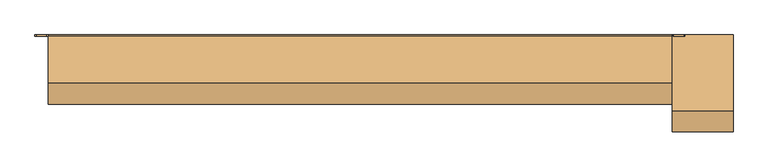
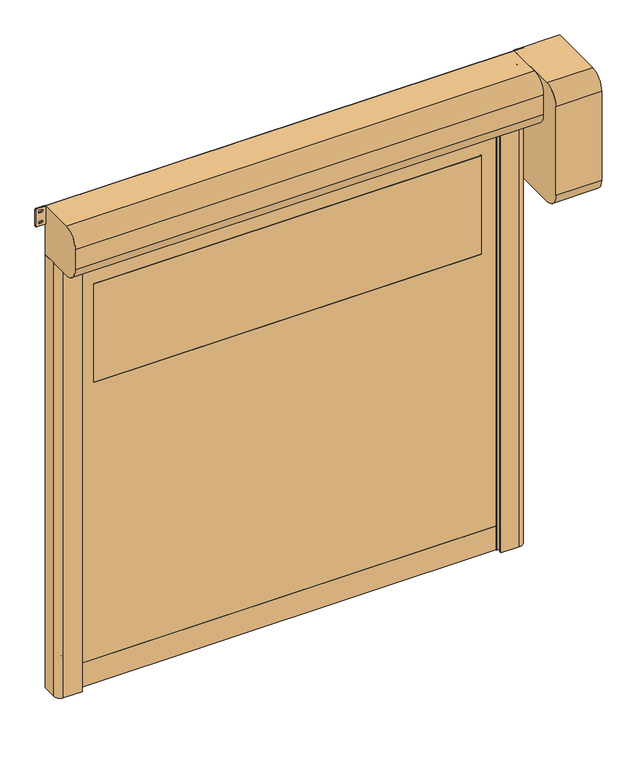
"""IFC4 building model written with IfcOpenShell, lengths in millimetres: door geometry, DO_WPB_DynaSeal_BMP : DynaSeal."""

import ifcopenshell
import ifcopenshell.guid

model = None  # the IFC model being written
_history = None  # IfcOwnerHistory: only IFC2X3 demands one
_inside = {}  # id of a spatial element -> (the spatial element, [elements in it])
_under = {}  # id of a project, library or spatial element -> (it, [spatial elements below it])
_declared = {}  # id of a project -> (the project, [libraries it declares])
_typed = {}  # id of a type object -> (the type object, [elements of that type])
_made_of = {}  # id of a material, layer set ... -> (it, [elements and type objects made of it])


def new_model(schema):
    """Start an empty IFC model of exactly this schema.

    Asked for "IFC4X3", IfcOpenShell would pick the latest addendum, in which some entities
    have other attributes; the version numbers below select the first issue.
    IFC2X3 requires an IfcOwnerHistory on every rooted entity: one is made here for all.
    """
    global model, _history
    if schema == "IFC4X3":
        model = ifcopenshell.file(schema_version=(4, 3, 0, 0))
    else:
        model = ifcopenshell.file(schema=schema)
    _inside.clear()
    _under.clear()
    _declared.clear()
    _typed.clear()
    _made_of.clear()
    _history = None
    if model.schema == "IFC2X3":
        org = make("IfcOrganization", Name="unknown")
        user = make(
            "IfcPersonAndOrganization",
            ThePerson=make("IfcPerson", FamilyName="unknown"),
            TheOrganization=org,
        )
        app = make(
            "IfcApplication",
            ApplicationDeveloper=org,
            Version="unknown",
            ApplicationFullName="unknown",
            ApplicationIdentifier="unknown",
        )
        _history = make(
            "IfcOwnerHistory",
            OwningUser=user,
            OwningApplication=app,
            ChangeAction="ADDED",
            CreationDate=0,
        )
    return model


def make(cls, **values):
    """One entity of the class cls with the attributes given. An attribute that is None is left unset."""
    return model.create_entity(
        cls, **{name: value for name, value in values.items() if value is not None}
    )


def rooted(cls, **values):
    """An entity with a GlobalId (a new one), such as an element, a storey or a relation."""
    return make(cls, GlobalId=ifcopenshell.guid.new(), OwnerHistory=_history, **values)


def si_unit(unit_type, name, prefix=None):
    """IfcSIUnit, for example si_unit("LENGTHUNIT", "METRE", prefix="MILLI")."""
    return make("IfcSIUnit", UnitType=unit_type, Prefix=prefix, Name=name)


def assignment(units):
    """IfcUnitAssignment: the units of a project."""
    return None if units is None else make("IfcUnitAssignment", Units=units)


def point(xyz):
    """IfcCartesianPoint."""
    return None if xyz is None else make("IfcCartesianPoint", Coordinates=xyz)


def direction(xyz):
    """IfcDirection."""
    return None if xyz is None else make("IfcDirection", DirectionRatios=xyz)


def frame(location, z_axis=None, x_axis=None):
    """IfcAxis2Placement3D, a coordinate frame: its origin and axes. An axis left out is left unset."""
    return make(
        "IfcAxis2Placement3D",
        Location=point(location),
        Axis=direction(z_axis),
        RefDirection=direction(x_axis),
    )


def frame_2d(location, x_axis=None):
    """IfcAxis2Placement2D, a coordinate frame in the plane: its origin and x axis."""
    return make(
        "IfcAxis2Placement2D", Location=point(location), RefDirection=direction(x_axis)
    )


def origin():
    """The frame at (0, 0, 0) with its axes left unset."""
    return frame((0.0, 0.0, 0.0))


def origin_with_axes():
    """The frame at (0, 0, 0) with the z axis (0, 0, 1) and the x axis (1, 0, 0) written out."""
    return frame((0.0, 0.0, 0.0), z_axis=(0.0, 0.0, 1.0), x_axis=(1.0, 0.0, 0.0))


def place(relative_to, where):
    """IfcLocalPlacement: puts the frame where relative to a parent placement (None: the world)."""
    return make(
        "IfcLocalPlacement", PlacementRelTo=relative_to, RelativePlacement=where
    )


def context(
    kind, dimensions, precision=None, world=None, true_north=None, identifier=None
):
    """IfcGeometricRepresentationContext, for example the 3D "Model" context."""
    return make(
        "IfcGeometricRepresentationContext",
        ContextIdentifier=identifier,
        ContextType=kind,
        CoordinateSpaceDimension=dimensions,
        Precision=precision,
        WorldCoordinateSystem=world,
        TrueNorth=true_north,
    )


def project(units=None, contexts=None):
    """IfcProject with its units and contexts."""
    return rooted(
        "IfcProject",
        Name="project",
        RepresentationContexts=contexts,
        UnitsInContext=assignment(units),
    )


def spatial(cls, under=None, at=None, **own):
    """A site, building, storey or space (cls), placed at a placement, below another one or the project."""
    s = rooted(cls, ObjectPlacement=at, **own)
    if under is not None:
        _under.setdefault(under.id(), (under, []))[1].append(s)
    return s


def polyline(points):
    """IfcPolyline through the points."""
    return make("IfcPolyline", Points=[point(p) for p in points])


def circle_curve(where, radius):
    """IfcCircle in the frame where."""
    return make("IfcCircle", Position=where, Radius=radius)


def trimmed(basis, trim1, trim2, sense, master):
    """IfcTrimmedCurve: the piece of a basis curve between two trims."""
    return make(
        "IfcTrimmedCurve",
        BasisCurve=basis,
        Trim1=trim1,
        Trim2=trim2,
        SenseAgreement=sense,
        MasterRepresentation=master,
    )


def segment(curve, same_sense, transition):
    """IfcCompositeCurveSegment."""
    return make(
        "IfcCompositeCurveSegment",
        Transition=transition,
        SameSense=same_sense,
        ParentCurve=curve,
    )


def composite_curve(segments, self_intersect=None):
    """IfcCompositeCurve: segments joined end to end."""
    return make("IfcCompositeCurve", Segments=segments, SelfIntersect=self_intersect)


def outline(outer, holes=None, kind="AREA"):
    """IfcArbitraryClosedProfileDef: a profile drawn as a closed curve; with holes, ...WithVoids."""
    if holes is None:
        return make("IfcArbitraryClosedProfileDef", ProfileType=kind, OuterCurve=outer)
    return make(
        "IfcArbitraryProfileDefWithVoids",
        ProfileType=kind,
        OuterCurve=outer,
        InnerCurves=holes,
    )


def extrude(swept, where, along, depth):
    """IfcExtrudedAreaSolid: the profile swept, set in the frame where, extruded along a direction by depth."""
    return make(
        "IfcExtrudedAreaSolid",
        SweptArea=swept,
        Position=where,
        ExtrudedDirection=direction(along),
        Depth=depth,
    )


def shape(context_of_items, identifier, shape_type, items):
    """IfcShapeRepresentation: the items that make up one representation, for example the "Body"."""
    return make(
        "IfcShapeRepresentation",
        ContextOfItems=context_of_items,
        RepresentationIdentifier=identifier,
        RepresentationType=shape_type,
        Items=items,
    )


def source(mapping_origin, context_of_items, identifier, shape_type, items):
    """IfcRepresentationMap: a shape defined once, which mapped items show again and again."""
    return make(
        "IfcRepresentationMap",
        MappingOrigin=mapping_origin,
        MappedRepresentation=shape(context_of_items, identifier, shape_type, items),
    )


def transform(
    local_origin,
    x_axis=None,
    y_axis=None,
    z_axis=None,
    scale=None,
    scale2=None,
    scale3=None,
    uniform=True,
):
    """IfcCartesianTransformationOperator3D, or its non-uniform kind. x_axis, y_axis, z_axis: its Axis1, 2, 3."""
    if uniform:
        return make(
            "IfcCartesianTransformationOperator3D",
            Axis1=direction(x_axis),
            Axis2=direction(y_axis),
            LocalOrigin=point(local_origin),
            Scale=scale,
            Axis3=direction(z_axis),
        )
    return make(
        "IfcCartesianTransformationOperator3DnonUniform",
        Axis1=direction(x_axis),
        Axis2=direction(y_axis),
        LocalOrigin=point(local_origin),
        Scale=scale,
        Axis3=direction(z_axis),
        Scale2=scale2,
        Scale3=scale3,
    )


def mapped(mapping_source, mapping_target):
    """IfcMappedItem: shows the shape of a source again, moved by a transform."""
    return make(
        "IfcMappedItem", MappingSource=mapping_source, MappingTarget=mapping_target
    )


def made_of(thing, what):
    """Note that an element or type object is made of a material, layer set ...; save() writes the relation."""
    if what is not None:
        _made_of.setdefault(what.id(), (what, []))[1].append(thing)
    return thing


def element(
    cls,
    number,
    at=None,
    inside=None,
    cuts=None,
    type_object=None,
    material=None,
    context=None,
    identifier="Body",
    shape_type=None,
    held_by="IfcProductDefinitionShape",
    body=None,
    shapes=None,
    **own,
):
    """One element of the class cls, such as IfcWall. Its Tag is "e" and its number.

    at: its placement. inside: the storey or other place that contains it. cuts: it is an
    opening in that element (IfcRelVoidsElement). A single representation is given by context,
    identifier, shape_type and body (its items); several are given by shapes. held_by: the class
    of the entity that holds the representations. save() writes the other relations.
    """
    e = rooted(cls, Tag="e%d" % number, ObjectPlacement=at, **own)
    if body is not None:
        shapes = [shape(context, identifier, shape_type, body)]
    if shapes is not None:
        e.Representation = make(held_by, Representations=shapes)
    if inside is not None:
        _inside.setdefault(inside.id(), (inside, []))[1].append(e)
    if cuts is not None:
        rooted(
            "IfcRelVoidsElement", RelatingBuildingElement=cuts, RelatedOpeningElement=e
        )
    if type_object is not None:
        _typed.setdefault(type_object.id(), (type_object, []))[1].append(e)
    return made_of(e, material)


def aggregate(whole, parts):
    """IfcRelAggregates: a whole, such as a stair, and the parts it consists of."""
    return rooted("IfcRelAggregates", RelatingObject=whole, RelatedObjects=parts)


def save(model, path):
    """Write the relations noted so far, then the file.

    IfcRelAggregates (storeys below a building ...), IfcRelContainedInSpatialStructure (elements
    in a storey), IfcRelDefinesByType, IfcRelAssociatesMaterial and IfcRelDeclares: one each for
    every whole, place, type object, material and project.
    """
    for whole, parts in _under.values():
        aggregate(whole, parts)
    for where, things in _inside.values():
        rooted(
            "IfcRelContainedInSpatialStructure",
            RelatedElements=things,
            RelatingStructure=where,
        )
    for kind, things in _typed.values():
        rooted("IfcRelDefinesByType", RelatedObjects=things, RelatingType=kind)
    for what, things in _made_of.values():
        rooted("IfcRelAssociatesMaterial", RelatedObjects=things, RelatingMaterial=what)
    for by, libraries in _declared.values():
        rooted("IfcRelDeclares", RelatingContext=by, RelatedDefinitions=libraries)
    model.write(path)


def door_e8c69fe0(model_context):
    return source(origin(), model_context, "Body", "SweptSolid", [
        extrude(outline(composite_curve([segment(trimmed(circle_curve(frame_2d((1416.6666667, 1064.0)), 6.0), [point((1422.6666667, 1064.0))], [point((1410.6666667, 1064.0))], False, "CARTESIAN"), True, "CONTINUOUS"), segment(polyline([(1410.6666667, 1064.0), (1410.6666667, 1082.0)]), True, "CONTINUOUS"), segment(trimmed(circle_curve(frame_2d((1416.6666667, 1082.0)), 6.0), [point((1410.6666667, 1082.0))], [point((1422.6666667, 1082.0))], False, "CARTESIAN"), True, "CONTINUOUS"), segment(polyline([(1422.6666667, 1082.0), (1422.6666667, 1064.0)]), True, "CONTINUOUS")], self_intersect=False)), frame((0.0, -20.0, 0.0), z_axis=(0.0, 1.0, 0.0), x_axis=(0.0, 0.0, 1.0)), (0.0, 0.0, 1.0), 20.0),
        extrude(outline(composite_curve([segment(trimmed(circle_curve(frame_2d((783.3333333, 1064.0)), 6.0), [point((789.3333333, 1064.0))], [point((777.3333333, 1064.0))], False, "CARTESIAN"), True, "CONTINUOUS"), segment(polyline([(777.3333333, 1064.0), (777.3333333, 1082.0)]), True, "CONTINUOUS"), segment(trimmed(circle_curve(frame_2d((783.3333333, 1082.0)), 6.0), [point((777.3333333, 1082.0))], [point((789.3333333, 1082.0))], False, "CARTESIAN"), True, "CONTINUOUS"), segment(polyline([(789.3333333, 1082.0), (789.3333333, 1064.0)]), True, "CONTINUOUS")], self_intersect=False)), frame((0.0, -20.0, 0.0), z_axis=(0.0, 1.0, 0.0), x_axis=(0.0, 0.0, 1.0)), (0.0, 0.0, 1.0), 20.0),
        extrude(outline(composite_curve([segment(trimmed(circle_curve(frame_2d((2050.0, 1064.0)), 6.0), [point((2056.0, 1064.0))], [point((2044.0, 1064.0))], False, "CARTESIAN"), True, "CONTINUOUS"), segment(polyline([(2044.0, 1064.0), (2044.0, 1082.0)]), True, "CONTINUOUS"), segment(trimmed(circle_curve(frame_2d((2050.0, 1082.0)), 6.0), [point((2044.0, 1082.0))], [point((2056.0, 1082.0))], False, "CARTESIAN"), True, "CONTINUOUS"), segment(polyline([(2056.0, 1082.0), (2056.0, 1064.0)]), True, "CONTINUOUS")], self_intersect=False)), frame((0.0, -20.0, 0.0), z_axis=(0.0, 1.0, 0.0), x_axis=(0.0, 0.0, 1.0)), (0.0, 0.0, 1.0), 20.0),
        extrude(outline(composite_curve([segment(trimmed(circle_curve(frame_2d((150.0, 1064.0)), 6.0), [point((156.0, 1064.0))], [point((144.0, 1064.0))], False, "CARTESIAN"), True, "CONTINUOUS"), segment(polyline([(144.0, 1064.0), (144.0, 1082.0)]), True, "CONTINUOUS"), segment(trimmed(circle_curve(frame_2d((150.0, 1082.0)), 6.0), [point((144.0, 1082.0))], [point((156.0, 1082.0))], False, "CARTESIAN"), True, "CONTINUOUS"), segment(polyline([(156.0, 1082.0), (156.0, 1064.0)]), True, "CONTINUOUS")], self_intersect=False)), frame((0.0, -20.0, 0.0), z_axis=(0.0, 1.0, 0.0), x_axis=(0.0, 0.0, 1.0)), (0.0, 0.0, 1.0), 20.0),
        extrude(outline(composite_curve([segment(polyline([(1422.6666667, -1064.0), (1422.6666667, -1082.0)]), True, "CONTINUOUS"), segment(trimmed(circle_curve(frame_2d((1416.6666667, -1082.0)), 6.0), [point((1422.6666667, -1082.0))], [point((1410.6666667, -1082.0))], False, "CARTESIAN"), True, "CONTINUOUS"), segment(polyline([(1410.6666667, -1082.0), (1410.6666667, -1064.0)]), True, "CONTINUOUS"), segment(trimmed(circle_curve(frame_2d((1416.6666667, -1064.0)), 6.0), [point((1410.6666667, -1064.0))], [point((1422.6666667, -1064.0))], False, "CARTESIAN"), True, "CONTINUOUS")], self_intersect=False)), frame((0.0, -20.0, 0.0), z_axis=(0.0, 1.0, 0.0), x_axis=(0.0, 0.0, 1.0)), (0.0, 0.0, 1.0), 20.0),
        extrude(outline(composite_curve([segment(polyline([(789.3333333, -1064.0), (789.3333333, -1082.0)]), True, "CONTINUOUS"), segment(trimmed(circle_curve(frame_2d((783.3333333, -1082.0)), 6.0), [point((789.3333333, -1082.0))], [point((777.3333333, -1082.0))], False, "CARTESIAN"), True, "CONTINUOUS"), segment(polyline([(777.3333333, -1082.0), (777.3333333, -1064.0)]), True, "CONTINUOUS"), segment(trimmed(circle_curve(frame_2d((783.3333333, -1064.0)), 6.0), [point((777.3333333, -1064.0))], [point((789.3333333, -1064.0))], False, "CARTESIAN"), True, "CONTINUOUS")], self_intersect=False)), frame((0.0, -20.0, 0.0), z_axis=(0.0, 1.0, 0.0), x_axis=(0.0, 0.0, 1.0)), (0.0, 0.0, 1.0), 20.0),
        extrude(outline(composite_curve([segment(polyline([(2056.0, -1064.0), (2056.0, -1082.0)]), True, "CONTINUOUS"), segment(trimmed(circle_curve(frame_2d((2050.0, -1082.0)), 6.0), [point((2056.0, -1082.0))], [point((2044.0, -1082.0))], False, "CARTESIAN"), True, "CONTINUOUS"), segment(polyline([(2044.0, -1082.0), (2044.0, -1064.0)]), True, "CONTINUOUS"), segment(trimmed(circle_curve(frame_2d((2050.0, -1064.0)), 6.0), [point((2044.0, -1064.0))], [point((2056.0, -1064.0))], False, "CARTESIAN"), True, "CONTINUOUS")], self_intersect=False)), frame((0.0, -20.0, 0.0), z_axis=(0.0, 1.0, 0.0), x_axis=(0.0, 0.0, 1.0)), (0.0, 0.0, 1.0), 20.0),
        extrude(outline(composite_curve([segment(polyline([(156.0, -1064.0), (156.0, -1082.0)]), True, "CONTINUOUS"), segment(trimmed(circle_curve(frame_2d((150.0, -1082.0)), 6.0), [point((156.0, -1082.0))], [point((144.0, -1082.0))], False, "CARTESIAN"), True, "CONTINUOUS"), segment(polyline([(144.0, -1082.0), (144.0, -1064.0)]), True, "CONTINUOUS"), segment(trimmed(circle_curve(frame_2d((150.0, -1064.0)), 6.0), [point((144.0, -1064.0))], [point((156.0, -1064.0))], False, "CARTESIAN"), True, "CONTINUOUS")], self_intersect=False)), frame((0.0, -20.0, 0.0), z_axis=(0.0, 1.0, 0.0), x_axis=(0.0, 0.0, 1.0)), (0.0, 0.0, 1.0), 20.0),
        extrude(outline(composite_curve([segment(trimmed(circle_curve(frame_2d((1526.0, 929.0)), 1.0), [point((1525.0, 929.0))], [point((1526.0, 930.0))], False, "CARTESIAN"), True, "CONTINUOUS"), segment(polyline([(1526.0, 930.0), (2024.0, 930.0)]), True, "CONTINUOUS"), segment(trimmed(circle_curve(frame_2d((2024.0, 929.0)), 1.0), [point((2024.0, 930.0))], [point((2025.0, 929.0))], False, "CARTESIAN"), True, "CONTINUOUS"), segment(polyline([(2025.0, 929.0), (2025.0, -929.0)]), True, "CONTINUOUS"), segment(trimmed(circle_curve(frame_2d((2024.0, -929.0)), 1.0), [point((2025.0, -929.0))], [point((2024.0, -930.0))], False, "CARTESIAN"), True, "CONTINUOUS"), segment(polyline([(2024.0, -930.0), (1526.0, -930.0)]), True, "CONTINUOUS"), segment(trimmed(circle_curve(frame_2d((1526.0, -929.0)), 1.0), [point((1526.0, -930.0))], [point((1525.0, -929.0))], False, "CARTESIAN"), True, "CONTINUOUS"), segment(polyline([(1525.0, -929.0), (1525.0, 929.0)]), True, "CONTINUOUS")], self_intersect=False)), frame((0.0, -68.5, 0.0), z_axis=(0.0, 1.0, 0.0), x_axis=(0.0, 0.0, 1.0)), (0.0, 0.0, 1.0), 7.0),
        extrude(outline(polyline([(120.0, -1012.0), (120.0, 1012.0), (2325.0, 1012.0), (2325.0, -1012.0), (120.0, -1012.0)]), holes=[composite_curve([segment(trimmed(circle_curve(frame_2d((1526.0, 929.0)), 1.0), [point((1526.0, 930.0))], [point((1525.0, 929.0))], True, "CARTESIAN"), True, "CONTINUOUS"), segment(polyline([(1525.0, 929.0), (1525.0, -929.0)]), True, "CONTINUOUS"), segment(trimmed(circle_curve(frame_2d((1526.0, -929.0)), 1.0), [point((1525.0, -929.0))], [point((1526.0, -930.0))], True, "CARTESIAN"), True, "CONTINUOUS"), segment(polyline([(1526.0, -930.0), (2024.0, -930.0)]), True, "CONTINUOUS"), segment(trimmed(circle_curve(frame_2d((2024.0, -929.0)), 1.0), [point((2024.0, -930.0))], [point((2025.0, -929.0))], True, "CARTESIAN"), True, "CONTINUOUS"), segment(polyline([(2025.0, -929.0), (2025.0, 929.0)]), True, "CONTINUOUS"), segment(trimmed(circle_curve(frame_2d((2024.0, 929.0)), 1.0), [point((2025.0, 929.0))], [point((2024.0, 930.0))], True, "CARTESIAN"), True, "CONTINUOUS"), segment(polyline([(2024.0, 930.0), (1526.0, 930.0)]), True, "CONTINUOUS")], self_intersect=False)]), frame((0.0, -68.5, 0.0), z_axis=(0.0, 1.0, 0.0), x_axis=(0.0, 0.0, 1.0)), (0.0, 0.0, 1.0), 7.0),
        extrude(outline(polyline([(-1012.0, -59.5), (1012.0, -59.5), (1012.0, -70.5), (-1012.0, -70.5), (-1012.0, -59.5)])), origin_with_axes(), (0.0, 0.0, 1.0), 120.0),
        extrude(outline(composite_curve([segment(trimmed(circle_curve(frame_2d((2363.75, 1130.75)), 5.75), [point((2363.75, 1125.0))], [point((2358.0, 1130.75))], False, "CARTESIAN"), True, "CONTINUOUS"), segment(polyline([(2358.0, 1130.75), (2358.0, 1168.25)]), True, "CONTINUOUS"), segment(trimmed(circle_curve(frame_2d((2363.75, 1168.25)), 5.75), [point((2358.0, 1168.25))], [point((2363.75, 1174.0))], False, "CARTESIAN"), True, "CONTINUOUS"), segment(polyline([(2363.75, 1174.0), (2444.25, 1174.0)]), True, "CONTINUOUS"), segment(trimmed(circle_curve(frame_2d((2444.25, 1168.25)), 5.75), [point((2444.25, 1174.0))], [point((2450.0, 1168.25))], False, "CARTESIAN"), True, "CONTINUOUS"), segment(polyline([(2450.0, 1168.25), (2450.0, 1130.75)]), True, "CONTINUOUS"), segment(trimmed(circle_curve(frame_2d((2444.25, 1130.75)), 5.75), [point((2450.0, 1130.75))], [point((2444.25, 1125.0))], False, "CARTESIAN"), True, "CONTINUOUS"), segment(polyline([(2444.25, 1125.0), (2363.75, 1125.0)]), True, "CONTINUOUS")], self_intersect=False), holes=[composite_curve([segment(trimmed(circle_curve(frame_2d((2431.5, 1153.75)), 5.75), [point((2437.25, 1153.75))], [point((2425.75, 1153.75))], True, "CARTESIAN"), True, "CONTINUOUS"), segment(polyline([(2425.75, 1153.75), (2425.75, 1145.25)]), True, "CONTINUOUS"), segment(trimmed(circle_curve(frame_2d((2431.5, 1145.25)), 5.75), [point((2425.75, 1145.25))], [point((2437.25, 1145.25))], True, "CARTESIAN"), True, "CONTINUOUS"), segment(polyline([(2437.25, 1145.25), (2437.25, 1153.75)]), True, "CONTINUOUS")], self_intersect=False), composite_curve([segment(trimmed(circle_curve(frame_2d((2376.5, 1153.75)), 5.75), [point((2382.25, 1153.75))], [point((2370.75, 1153.75))], True, "CARTESIAN"), True, "CONTINUOUS"), segment(polyline([(2370.75, 1153.75), (2370.75, 1145.25)]), True, "CONTINUOUS"), segment(trimmed(circle_curve(frame_2d((2376.5, 1145.25)), 5.75), [point((2370.75, 1145.25))], [point((2382.25, 1145.25))], True, "CARTESIAN"), True, "CONTINUOUS"), segment(polyline([(2382.25, 1145.25), (2382.25, 1153.75)]), True, "CONTINUOUS")], self_intersect=False)]), frame((0.0, -5.0, 0.0), z_axis=(0.0, 1.0, 0.0), x_axis=(0.0, 0.0, 1.0)), (0.0, 0.0, 1.0), 5.0),
        extrude(outline(composite_curve([segment(trimmed(circle_curve(frame_2d((2363.75, -1168.25)), 5.75), [point((2363.75, -1174.0))], [point((2358.0, -1168.25))], False, "CARTESIAN"), True, "CONTINUOUS"), segment(polyline([(2358.0, -1168.25), (2358.0, -1130.75)]), True, "CONTINUOUS"), segment(trimmed(circle_curve(frame_2d((2363.75, -1130.75)), 5.75), [point((2358.0, -1130.75))], [point((2363.75, -1125.0))], False, "CARTESIAN"), True, "CONTINUOUS"), segment(polyline([(2363.75, -1125.0), (2444.25, -1125.0)]), True, "CONTINUOUS"), segment(trimmed(circle_curve(frame_2d((2444.25, -1130.75)), 5.75), [point((2444.25, -1125.0))], [point((2450.0, -1130.75))], False, "CARTESIAN"), True, "CONTINUOUS"), segment(polyline([(2450.0, -1130.75), (2450.0, -1168.25)]), True, "CONTINUOUS"), segment(trimmed(circle_curve(frame_2d((2444.25, -1168.25)), 5.75), [point((2450.0, -1168.25))], [point((2444.25, -1174.0))], False, "CARTESIAN"), True, "CONTINUOUS"), segment(polyline([(2444.25, -1174.0), (2363.75, -1174.0)]), True, "CONTINUOUS")], self_intersect=False), holes=[composite_curve([segment(trimmed(circle_curve(frame_2d((2431.5, -1145.25)), 5.75), [point((2437.25, -1145.25))], [point((2425.75, -1145.25))], True, "CARTESIAN"), True, "CONTINUOUS"), segment(polyline([(2425.75, -1145.25), (2425.75, -1153.75)]), True, "CONTINUOUS"), segment(trimmed(circle_curve(frame_2d((2431.5, -1153.75)), 5.75), [point((2425.75, -1153.75))], [point((2437.25, -1153.75))], True, "CARTESIAN"), True, "CONTINUOUS"), segment(polyline([(2437.25, -1153.75), (2437.25, -1145.25)]), True, "CONTINUOUS")], self_intersect=False), composite_curve([segment(trimmed(circle_curve(frame_2d((2376.5, -1145.25)), 5.75), [point((2382.25, -1145.25))], [point((2370.75, -1145.25))], True, "CARTESIAN"), True, "CONTINUOUS"), segment(polyline([(2370.75, -1145.25), (2370.75, -1153.75)]), True, "CONTINUOUS"), segment(trimmed(circle_curve(frame_2d((2376.5, -1153.75)), 5.75), [point((2370.75, -1153.75))], [point((2382.25, -1153.75))], True, "CARTESIAN"), True, "CONTINUOUS"), segment(polyline([(2382.25, -1153.75), (2382.25, -1145.25)]), True, "CONTINUOUS")], self_intersect=False)]), frame((0.0, -5.0, 0.0), z_axis=(0.0, 1.0, 0.0), x_axis=(0.0, 0.0, 1.0)), (0.0, 0.0, 1.0), 5.0),
        extrude(outline(composite_curve([segment(polyline([(-1125.0, 0.0), (-1015.0, 0.0), (-1015.0, -49.2857143), (-1035.0, -55.0), (-1000.0, -55.0), (-1000.0, -61.5), (-1020.0, -61.5), (-1020.0, -68.5), (-1000.0, -68.5), (-1000.0, -75.0), (-1035.0, -75.0), (-1035.0, -90.0), (-1005.0, -90.0), (-1005.0, -100.0), (-1095.0, -100.0)]), True, "CONTINUOUS"), segment(trimmed(circle_curve(frame_2d((-1095.0, -70.0)), 30.0), [point((-1095.0, -100.0))], [point((-1125.0, -70.0))], False, "CARTESIAN"), True, "CONTINUOUS"), segment(polyline([(-1125.0, -70.0), (-1125.0, 0.0)]), True, "CONTINUOUS")], self_intersect=False)), origin_with_axes(), (0.0, 0.0, 1.0), 2200.0),
        extrude(outline(composite_curve([segment(polyline([(1125.0, 0.0), (1125.0, -70.0)]), True, "CONTINUOUS"), segment(trimmed(circle_curve(frame_2d((1095.0, -70.0)), 30.0), [point((1125.0, -70.0))], [point((1095.0, -100.0))], False, "CARTESIAN"), True, "CONTINUOUS"), segment(polyline([(1095.0, -100.0), (1005.0, -100.0), (1005.0, -90.0), (1035.0, -90.0), (1035.0, -75.0), (1000.0, -75.0), (1000.0, -68.5), (1020.0, -68.5), (1020.0, -61.5), (1000.0, -61.5), (1000.0, -55.0), (1035.0, -55.0), (1015.0, -49.2857143), (1015.0, 0.0), (1125.0, 0.0)]), True, "CONTINUOUS")], self_intersect=False)), origin_with_axes(), (0.0, 0.0, 1.0), 2200.0),
        extrude(outline(composite_curve([segment(polyline([(0.0, 2450.0), (0.0, 1850.0), (-275.0, 1850.0)]), True, "CONTINUOUS"), segment(trimmed(circle_curve(frame_2d((-275.0, 1925.0)), 75.0), [point((-275.0, 1850.0))], [point((-350.0, 1925.0))], False, "CARTESIAN"), True, "CONTINUOUS"), segment(polyline([(-350.0, 1925.0), (-350.0, 2375.0)]), True, "CONTINUOUS"), segment(trimmed(circle_curve(frame_2d((-275.0, 2375.0)), 75.0), [point((-350.0, 2375.0))], [point((-275.0, 2450.0))], False, "CARTESIAN"), True, "CONTINUOUS"), segment(polyline([(-275.0, 2450.0), (0.0, 2450.0)]), True, "CONTINUOUS")], self_intersect=False)), frame((1125.0, 0.0, 0.0), z_axis=(1.0, 0.0, 0.0), x_axis=(0.0, 1.0, 0.0)), (0.0, 0.0, 1.0), 220.0),
        extrude(outline(composite_curve([segment(trimmed(circle_curve(frame_2d((-5.0, 2205.0)), 5.0), [point((0.0, 2205.0))], [point((-5.0, 2200.0))], False, "CARTESIAN"), True, "CONTINUOUS"), segment(polyline([(-5.0, 2200.0), (-175.0, 2200.0)]), True, "CONTINUOUS"), segment(trimmed(circle_curve(frame_2d((-175.0, 2275.0)), 75.0), [point((-175.0, 2200.0))], [point((-250.0, 2275.0))], False, "CARTESIAN"), True, "CONTINUOUS"), segment(polyline([(-250.0, 2275.0), (-250.0, 2375.0)]), True, "CONTINUOUS"), segment(trimmed(circle_curve(frame_2d((-175.0, 2375.0)), 75.0), [point((-250.0, 2375.0))], [point((-175.0, 2450.0))], False, "CARTESIAN"), True, "CONTINUOUS"), segment(polyline([(-175.0, 2450.0), (-5.0, 2450.0)]), True, "CONTINUOUS"), segment(trimmed(circle_curve(frame_2d((-5.0, 2445.0)), 5.0), [point((-5.0, 2450.0))], [point((0.0, 2445.0))], False, "CARTESIAN"), True, "CONTINUOUS"), segment(polyline([(0.0, 2445.0), (0.0, 2205.0)]), True, "CONTINUOUS")], self_intersect=False)), frame((-1125.0, 0.0, 0.0), z_axis=(1.0, 0.0, 0.0), x_axis=(0.0, 1.0, 0.0)), (0.0, 0.0, 1.0), 2250.0),
    ])


if __name__ == "__main__":
    model = new_model("IFC4")
    model_context = context("Model", 3, world=origin())
    ifc_project = project(units=[si_unit("LENGTHUNIT", "METRE", prefix="MILLI")], contexts=[model_context])
    site = spatial("IfcSite", under=ifc_project)
    building = spatial("IfcBuilding", under=site)
    placement = place(None, origin())
    door_shape = door_e8c69fe0(model_context)
    element("IfcDoor", 1, ObjectType="DO_WPB_DynaSeal_BMP : DynaSeal", at=placement, inside=building, context=model_context, shape_type="MappedRepresentation", body=[
        mapped(door_shape, transform((0.0, 0.0, 0.0), x_axis=(1.0, 0.0, 0.0), y_axis=(0.0, 1.0, 0.0), z_axis=(0.0, 0.0, 1.0))),
    ])
    save(model, "model.ifc")
